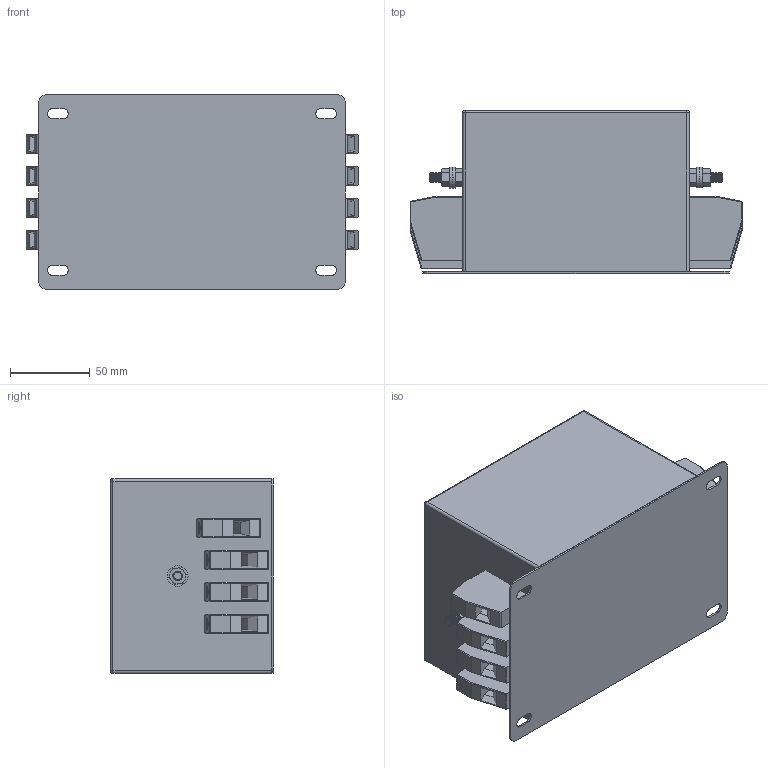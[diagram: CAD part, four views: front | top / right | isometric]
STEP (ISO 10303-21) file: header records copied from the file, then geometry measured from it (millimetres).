
FILE_DESCRIPTION (( 'STEP AP203' ), '1' );
FILE_NAME ('NF-4-50-FSK.STEP', '2013-07-12T14:29:59', ( 'Owner' ), ( 'EPA' ), 'SwSTEP 2.0', 'SolidWorks 2007', '' );
FILE_SCHEMA (( 'CONFIG_CONTROL_DESIGN' ));
Length unit declared in the file: millimetre
Products named in the file (7): Flat Washer Narrow_AM_B18.22M - Plain washer, 6 mm, narrow; Hex Nut Style 1_AM_B18.2.4.1M - Hex nut, Style 1,  M6 x 1 --D-N; NF-4-50-FSK; FSK-2; HDFK-16; M6x16 Earth post; Hex Screw_AM_B18.6.7M - M6 x 1.0 x 16 Plain HHMS --16S
Assembly tree (15 placements, depth 3):
  NF-4-50-FSK
    HDFK-16  x8
    FSK-2
    M6x16 Earth post  x2
      Flat Washer Narrow_AM_B18.22M - Plain washer, 6 mm, narrow
      Hex Nut Style 1_AM_B18.2.4.1M - Hex nut, Style 1,  M6 x 1 --D-N
      Hex Screw_AM_B18.6.7M - M6 x 1.0 x 16 Plain HHMS --16S
Bounding box: 208.01 x 102 x 122 mm (x, y, z)
Volume: 1848370 mm3; surface area: 206236.8 mm2
Topology: 18 solids, 18 shells, 944 faces, 2202 edges, 1340 vertices
Faces by surface type: plane 574, cone 200, cylinder 166, sphere 4
Entity records: 9567 total; most frequent: CARTESIAN_POINT 1618, DIRECTION 1546, ORIENTED_EDGE 1400, EDGE_CURVE 700, AXIS2_PLACEMENT_3D 578, VERTEX_POINT 434, VECTOR 390, LINE 390
